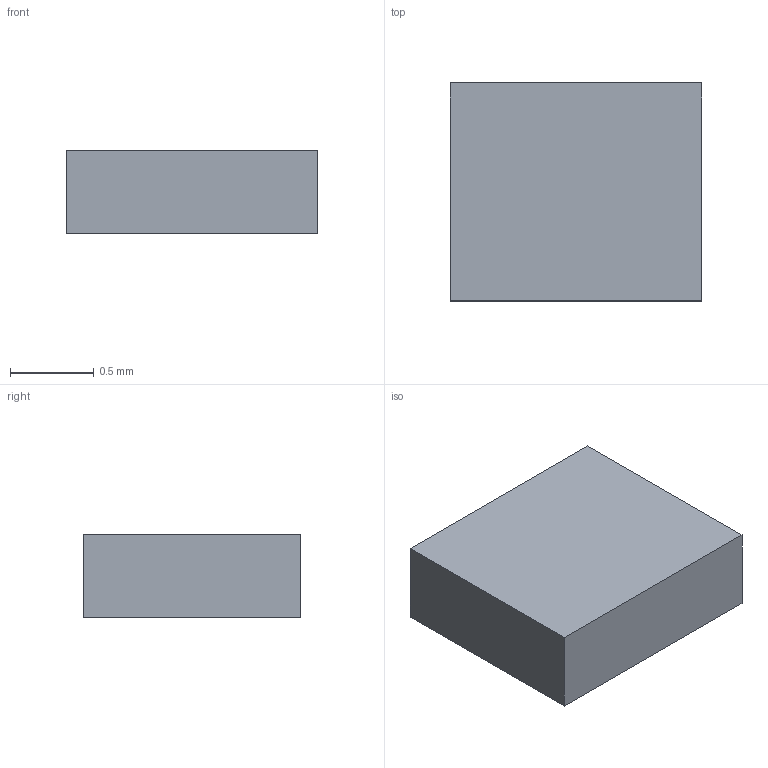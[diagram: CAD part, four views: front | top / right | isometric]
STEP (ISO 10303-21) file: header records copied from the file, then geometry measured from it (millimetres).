
FILE_DESCRIPTION(/* description */ ('STEP AP242 Edition 2','CAx-IF Rec.Pracs.---Representation and Presentation of Product Manufacturing Information (PMI)---4.0---2014-10-13','CAx-IF Rec.Pracs.---3D Tessellated Geometry---0.4---2014-09-14','2;1','CAx-IF Rec.Pracs.---User Defined Attributes---1.5---2016-08-15'),/* implementation_level */ '2;1');
FILE_NAME(/* name */ 'Drone Layout - Surface 6',/* time_stamp */ '2026-10-04T22:23:00Z',/* author */ (''),/* organization */ (''),/* preprocessor_version */ 'ST-DEVELOPER v20',/* originating_system */ 'ONSHAPE BY PTC INC, 1.221',/* authorisation */ ' ');
FILE_SCHEMA (('AP242_MANAGED_MODEL_BASED_3D_ENGINEERING_MIM_LF { 1 0 10303 442 3 1 4 }'));
Length unit declared in the file: metre
Products named in the file (1): Led:2__Led
Bounding box: 1.5 x 1.3 x 0.5 mm (x, y, z)
Volume: 1 mm3; surface area: 6.7 mm2
Topology: 1 solids, 1 shells, 6 faces, 12 edges, 8 vertices
Faces by surface type: plane 6
Entity records: 169 total; most frequent: CARTESIAN_POINT 27, DIRECTION 26, ORIENTED_EDGE 24, EDGE_CURVE 12, LINE 12, VECTOR 12, VERTEX_POINT 8, AXIS2_PLACEMENT_3D 7
